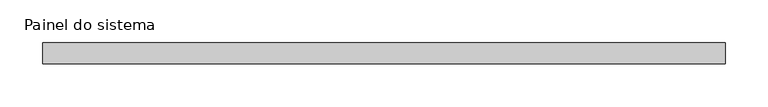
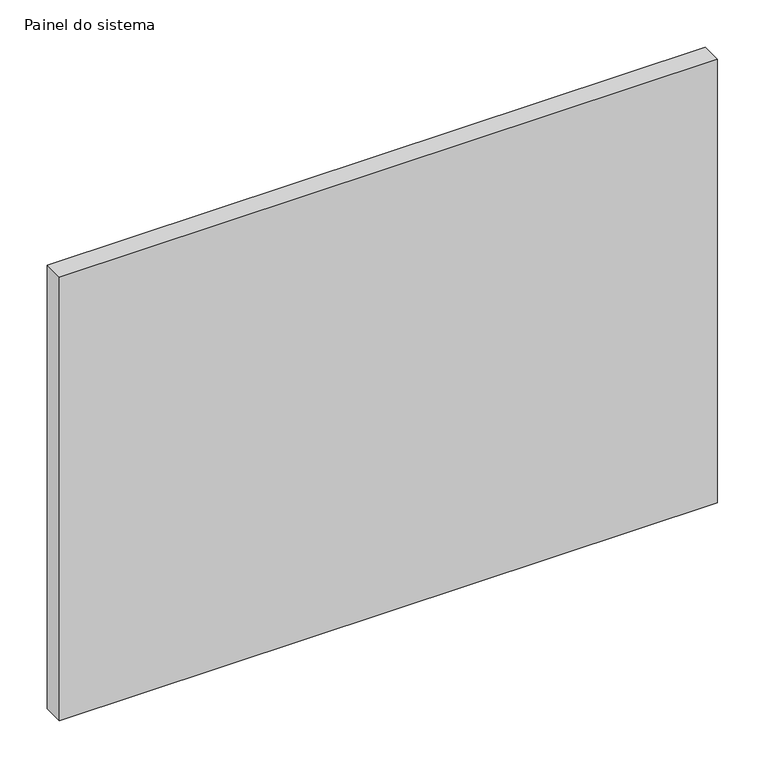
"""IFC4 building model written with IfcOpenShell, lengths in millimetres: plate geometry, Painel do sistema : Envidraçado."""

from ifc_helpers import new_model, si_unit, origin, origin_with_axes, place, context, project, spatial, polyline, outline, extrude, source, transform, mapped, element, save


def painel_do_sistema_89a92418(model_context):
    return source(origin(), model_context, "Body", "SweptSolid", [
        extrude(outline(polyline([(400.0, 24.5), (-400.0, 24.5), (-400.0, 49.5), (400.0, 49.5), (400.0, 24.5)])), origin_with_axes(), (0.0, 0.0, 1.0), 570.0),
    ])


if __name__ == "__main__":
    model = new_model("IFC4")
    model_context = context("Model", 3, world=origin())
    ifc_project = project(units=[si_unit("LENGTHUNIT", "METRE", prefix="MILLI")], contexts=[model_context])
    site = spatial("IfcSite", under=ifc_project)
    building = spatial("IfcBuilding", under=site)
    placement = place(None, origin())
    painel_do_sistema_shape = painel_do_sistema_89a92418(model_context)
    element("IfcPlate", 1, ObjectType="Painel do sistema : Envidraçado", at=placement, inside=building, context=model_context, shape_type="MappedRepresentation", body=[
        mapped(painel_do_sistema_shape, transform((0.0, 0.0, 0.0), x_axis=(1.0, 0.0, 0.0), y_axis=(0.0, 1.0, 0.0), z_axis=(0.0, 0.0, 1.0))),
    ])
    save(model, "model.ifc")
